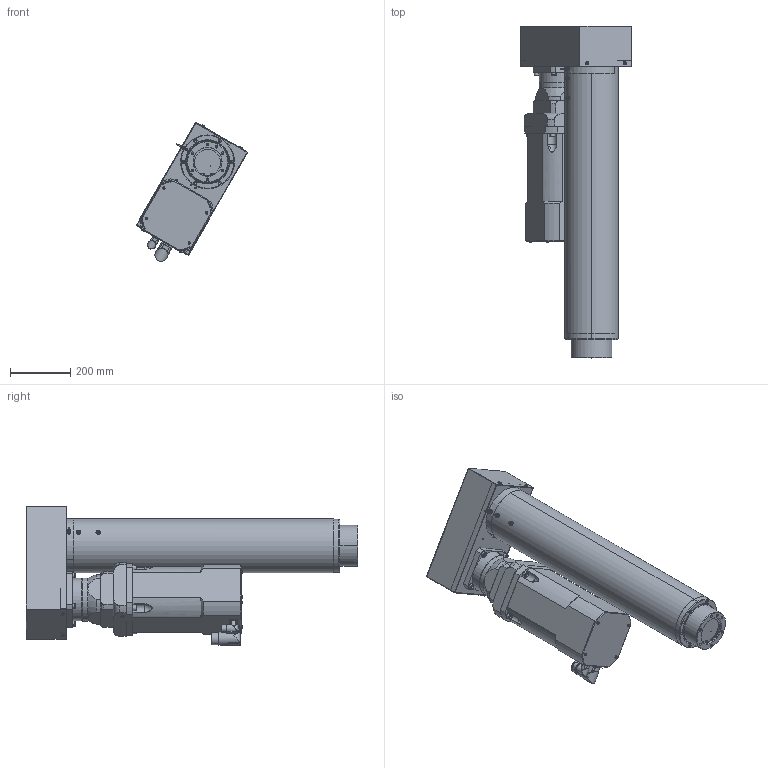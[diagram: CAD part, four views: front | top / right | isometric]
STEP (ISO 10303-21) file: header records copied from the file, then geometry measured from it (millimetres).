
FILE_DESCRIPTION (( 'STEP AP214' ), '1' );
FILE_NAME ('RLWPK100D-055-020H.STEP', '2023-04-06T06:05:24', ( '' ), ( '' ), 'SwSTEP 2.0', 'SolidWorks 2021', '' );
FILE_SCHEMA (( 'AUTOMOTIVE_DESIGN' ));
Length unit declared in the file: millimetre
Products named in the file (1): RLWPK100D-055-020H
Bounding box: 368.77 x 1097.5 x 460.66 mm (x, y, z)
Volume: 34257082 mm3; surface area: 2941831.8 mm2
Topology: 31 solids, 31 shells, 1230 faces, 2924 edges, 1758 vertices
Faces by surface type: cylinder 482, plane 434, cone 206, torus 76, bspline 30, sphere 2
Entity records: 50741 total; most frequent: CARTESIAN_POINT 8384, DIRECTION 6308, ORIENTED_EDGE 5576, EDGE_CURVE 2788, AXIS2_PLACEMENT_3D 2474, VERTEX_POINT 1758, EDGE_LOOP 1466, VECTOR 1360
